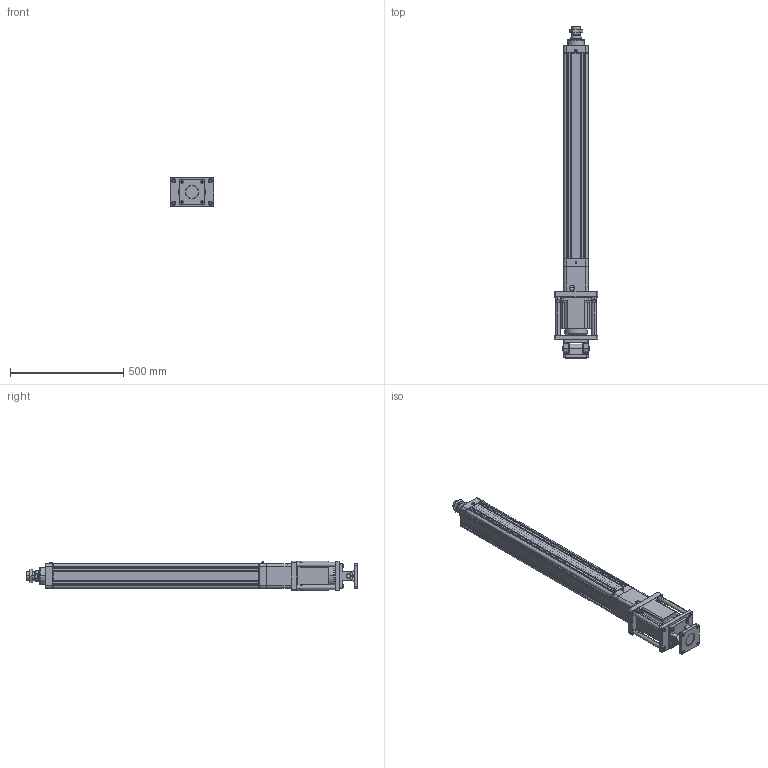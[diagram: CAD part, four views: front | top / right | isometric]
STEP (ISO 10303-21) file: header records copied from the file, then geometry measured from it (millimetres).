
FILE_DESCRIPTION((''),'2;1');
FILE_NAME('HE100-D-P_ASM','2020-05-13T',('ASUS20200'),(''),'CREO PARAMETRIC BY PTC INC, 2014190','CREO PARAMETRIC BY PTC INC, 2014190','');
FILE_SCHEMA(('CONFIG_CONTROL_DESIGN'));
Length unit declared in the file: millimetre
Products named in the file (27): HE100-D-P-001-X1; HE100-D-P-002-X1; HE100-D-P-003-X1; 30305J; JDB506030; SLM-01; YZ-M6X1; HE100-100-D-P-X1_ASM; HE100-D-009-X1; HE100-D-010-X1-130N; M8X20; 130ST-M10010; TD-8; M8X40; SKT-20; HE100-D-P-005-X1; HE100-D-P-004-X1; HE80-D-P-008-X1; LGLM-M10-25; HE100-FB-LG; F-HE100FB; M10X30; F-SE100CB; F-SE100CB-XD; F-SE100CB_ASM; F-SE100CA; HE100-D-P_ASM
Assembly tree (54 placements, depth 3):
  HE100-D-P_ASM
    HE100-100-D-P-X1_ASM
      HE100-D-P-001-X1
      HE100-D-P-002-X1
      HE100-D-P-003-X1
      30305J  x2
      JDB506030
      SLM-01
      YZ-M6X1
    HE100-D-009-X1
    HE100-D-010-X1-130N
    M8X20  x4
    130ST-M10010
    TD-8  x4
    M8X40  x4
    SKT-20  x2
    HE100-D-P-005-X1
    HE100-D-P-004-X1
    HE80-D-P-008-X1
    LGLM-M10-25  x4
    HE100-FB-LG  x4
    F-HE100FB
    M10X30  x12
    F-SE100CB_ASM
      F-SE100CB
      F-SE100CB-XD
    F-SE100CA
Bounding box: 190 x 1464 x 130 mm (x, y, z)
Volume: 8549434.6 mm3; surface area: 1941130.5 mm2
Topology: 52 solids, 87 shells, 2506 faces, 5751 edges, 3462 vertices
Faces by surface type: plane 860, cylinder 744, cone 734, torus 134, sphere 30, bspline 4
Entity records: 54236 total; most frequent: CARTESIAN_POINT 10202, DIRECTION 9806, ORIENTED_EDGE 8428, EDGE_CURVE 4269, AXIS2_PLACEMENT_3D 3804, VERTEX_POINT 2572, VECTOR 2198, LINE 2198
